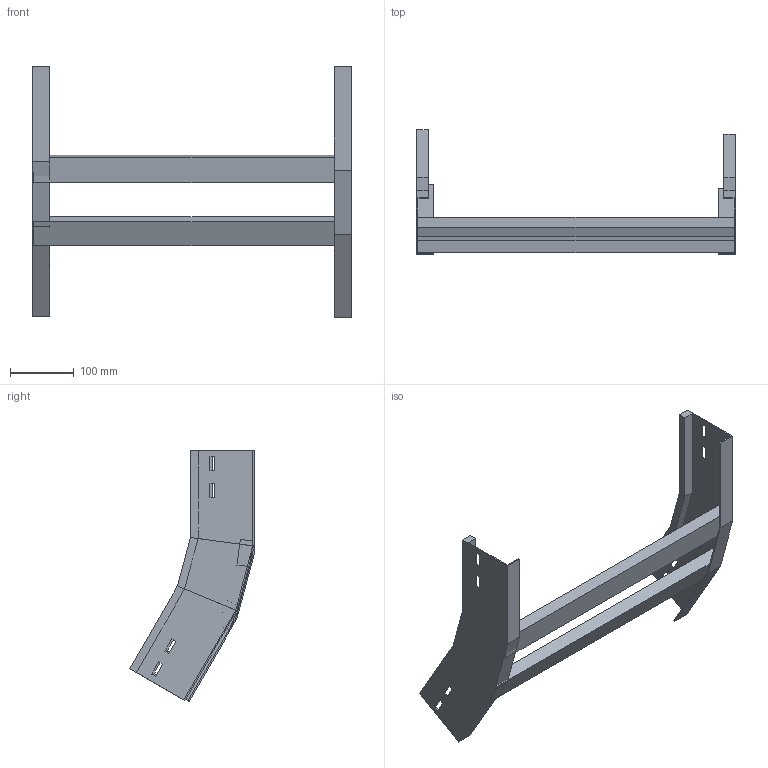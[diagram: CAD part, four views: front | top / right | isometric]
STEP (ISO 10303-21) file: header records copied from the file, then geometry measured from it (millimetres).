
FILE_DESCRIPTION (( 'STEP AP214' ), '1' );
FILE_NAME ('A2X32B3D500XX.step', '2025-03-20T09:57:05', ( '' ), ( '' ), 'SwSTEP 2.0', 'SolidWorks 2023', '' );
FILE_SCHEMA (( 'AUTOMOTIVE_DESIGN' ));
Length unit declared in the file: millimetre
Products named in the file (3): TRAVERSINO_500; A2X32B3D500XX; LONGH.SALITA_30°_H100_R300
Assembly tree (4 placements, depth 2):
  A2X32B3D500XX
    LONGH.SALITA_30°_H100_R300  x2
    TRAVERSINO_500  x2
Bounding box: 500 x 195.25 x 394.23 mm (x, y, z)
Volume: 1140886.2 mm3; surface area: 348579.2 mm2
Topology: 4 solids, 4 shells, 96 faces, 232 edges, 144 vertices
Faces by surface type: plane 96
Entity records: 1472 total; most frequent: CARTESIAN_POINT 243, ORIENTED_EDGE 232, DIRECTION 226, EDGE_CURVE 116, LINE 116, VECTOR 116, VERTEX_POINT 72, EDGE_LOOP 56
